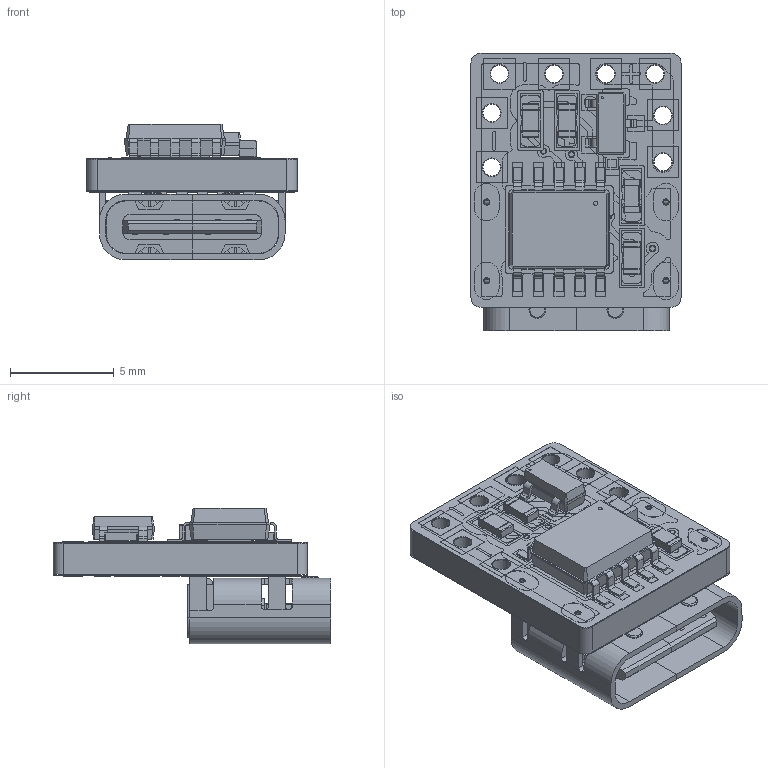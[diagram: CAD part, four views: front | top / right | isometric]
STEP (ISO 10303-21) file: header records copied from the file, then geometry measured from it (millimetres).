
FILE_DESCRIPTION(('KiCad electronic assembly'),'2;1');
FILE_NAME('USB-C.step','2026-01-04T10:48:46',('Pcbnew'),('Kicad'), 'Open CASCADE STEP processor 7.9','KiCad to STEP converter','Unknown' );
FILE_SCHEMA(('AUTOMOTIVE_DESIGN { 1 0 10303 214 1 1 1 1 }'));
Length unit declared in the file: millimetre
Products named in the file (14): USB-C 1; C_0603_1608Metric; SSOP-10-1EP_3.9x4.9mm_P1.0mm_EP2.1x3.3mm; R_0603_1608Metric; SOT-23-3; USB_C_Receptacle_GCT_USB4125-xx-x_6P_TopMnt_Horizontal; USB-C_copper; USB-C_pad; USB-C_via; USB-C_silkscreen; USB-C_soldermask; USB-C_PCB
Assembly tree (15 placements, depth 2):
  USB-C 1
    C_0603_1608Metric
    SSOP-10-1EP_3.9x4.9mm_P1.0mm_EP2.1x3.3mm
    R_0603_1608Metric  x3
    SOT-23-3
    USB_C_Receptacle_GCT_USB4125-xx-x_6P_TopMnt_Horizontal
    USB-C_copper
    USB-C_pad
    USB-C_via
    USB-C_silkscreen
    USB-C_silkscreen
    USB-C_soldermask
    USB-C_soldermask
    USB-C_PCB
Bounding box: 10.12 x 13.38 x 6.54 mm (x, y, z)
Volume: 317.4 mm3; surface area: 1617.5 mm2
Topology: 119 solids, 146 shells, 2070 faces, 5827 edges, 4026 vertices
Faces by surface type: plane 1537, cylinder 499, bspline 32, cone 2
Full cylindrical faces by diameter (mm): 0.25 x21, 0.275 x24, 0.3 x16, 0.8 x2, 0.85 x24, 0.875 x16, 0.9 x16
Entity records: 72938 total; most frequent: CARTESIAN_POINT 11807, DIRECTION 10781, ORIENTED_EDGE 10710, EDGE_CURVE 5691, LINE 4509, VECTOR 4509, VERTEX_POINT 3938, AXIS2_PLACEMENT_3D 3136
